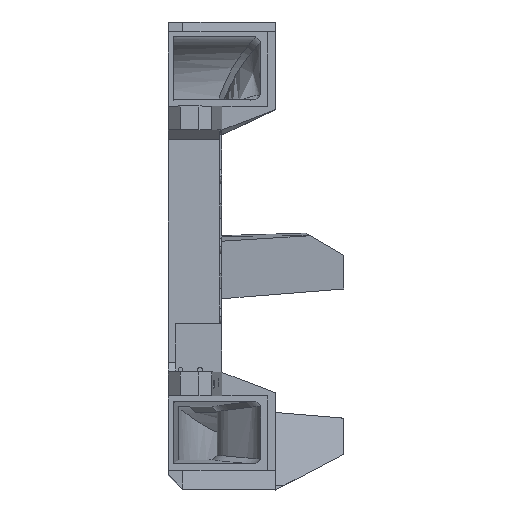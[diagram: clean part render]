
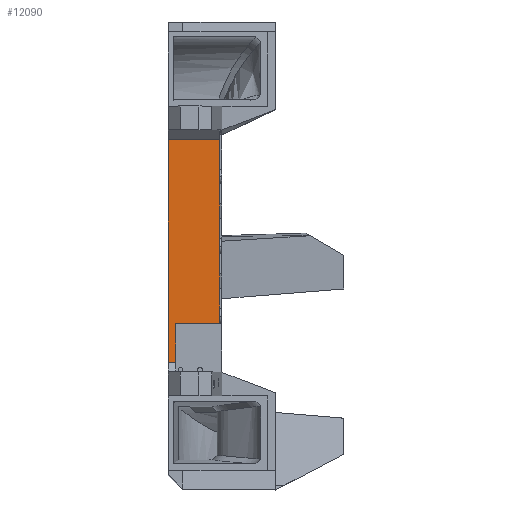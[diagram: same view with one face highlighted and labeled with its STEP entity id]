
A CAD part, top view. The second image highlights one B-rep face of the part: STEP entity #12090.
In plain terms, the highlighted planar face has unit normal (0, 0, 1).
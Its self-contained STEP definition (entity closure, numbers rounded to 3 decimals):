
#719=LINE('',#17948,#1960);
#953=LINE('',#20029,#2194);
#954=LINE('',#20031,#2195);
#955=LINE('',#20033,#2196);
#956=LINE('',#20035,#2197);
#957=LINE('',#20037,#2198);
#958=LINE('',#20039,#2199);
#959=LINE('',#20041,#2200);
#960=LINE('',#20043,#2201);
#961=LINE('',#20045,#2202);
#1960=VECTOR('',#15002,1000.);
#2194=VECTOR('',#15440,1000.);
#2195=VECTOR('',#15441,1000.);
#2196=VECTOR('',#15442,1000.);
#2197=VECTOR('',#15443,1000.);
#2198=VECTOR('',#15444,1000.);
#2199=VECTOR('',#15445,1000.);
#2200=VECTOR('',#15446,1000.);
#2201=VECTOR('',#15447,1000.);
#2202=VECTOR('',#15448,1000.);
#3771=ORIENTED_EDGE('',*,*,#6833,.F.);
#3772=ORIENTED_EDGE('',*,*,#7354,.T.);
#3773=ORIENTED_EDGE('',*,*,#7355,.T.);
#3774=ORIENTED_EDGE('',*,*,#7356,.T.);
#3775=ORIENTED_EDGE('',*,*,#7357,.T.);
#3776=ORIENTED_EDGE('',*,*,#7358,.T.);
#3777=ORIENTED_EDGE('',*,*,#7359,.T.);
#3778=ORIENTED_EDGE('',*,*,#7360,.T.);
#3779=ORIENTED_EDGE('',*,*,#7361,.T.);
#3780=ORIENTED_EDGE('',*,*,#7362,.T.);
#6833=EDGE_CURVE('',#8643,#8644,#719,.T.);
#7354=EDGE_CURVE('',#8643,#9131,#953,.T.);
#7355=EDGE_CURVE('',#9131,#9132,#954,.T.);
#7356=EDGE_CURVE('',#9132,#9133,#955,.T.);
#7357=EDGE_CURVE('',#9133,#9134,#956,.T.);
#7358=EDGE_CURVE('',#9134,#9135,#957,.T.);
#7359=EDGE_CURVE('',#9135,#9136,#958,.T.);
#7360=EDGE_CURVE('',#9136,#9137,#959,.T.);
#7361=EDGE_CURVE('',#9137,#9138,#960,.T.);
#7362=EDGE_CURVE('',#9138,#8644,#961,.T.);
#8643=VERTEX_POINT('',#17947);
#8644=VERTEX_POINT('',#17949);
#9131=VERTEX_POINT('',#20030);
#9132=VERTEX_POINT('',#20032);
#9133=VERTEX_POINT('',#20034);
#9134=VERTEX_POINT('',#20036);
#9135=VERTEX_POINT('',#20038);
#9136=VERTEX_POINT('',#20040);
#9137=VERTEX_POINT('',#20042);
#9138=VERTEX_POINT('',#20044);
#10161=EDGE_LOOP('',(#3771,#3772,#3773,#3774,#3775,#3776,#3777,#3778,#3779,
#3780));
#10896=FACE_BOUND('',#10161,.T.);
#11587=PLANE('',#14256);
#12090=ADVANCED_FACE('',(#10896),#11587,.T.);
#14256=AXIS2_PLACEMENT_3D('',#20028,#15438,#15439);
#15002=DIRECTION('',(0.,1.,0.));
#15438=DIRECTION('',(0.,0.,1.));
#15439=DIRECTION('',(1.,0.,0.));
#15440=DIRECTION('',(1.,0.,0.));
#15441=DIRECTION('',(0.,1.,0.));
#15442=DIRECTION('',(1.,0.,0.));
#15443=DIRECTION('',(0.,1.,0.));
#15444=DIRECTION('',(0.,1.,0.));
#15445=DIRECTION('',(0.,1.,0.));
#15446=DIRECTION('',(0.,1.,0.));
#15447=DIRECTION('',(0.,1.,0.));
#15448=DIRECTION('',(-1.,0.,0.));
#17947=CARTESIAN_POINT('',(-31.,-2.,20.998));
#17948=CARTESIAN_POINT('',(-31.,-4.,20.998));
#17949=CARTESIAN_POINT('',(-31.,43.7,20.998));
#20028=CARTESIAN_POINT('',(-29.5,-4.,20.998));
#20029=CARTESIAN_POINT('',(-29.5,-2.,20.998));
#20030=CARTESIAN_POINT('',(-29.5,-2.,20.998));
#20031=CARTESIAN_POINT('',(-29.5,-4.,20.998));
#20032=CARTESIAN_POINT('',(-29.5,6.,20.998));
#20033=CARTESIAN_POINT('',(-29.5,6.,20.998));
#20034=CARTESIAN_POINT('',(-20.472,6.,20.998));
#20035=CARTESIAN_POINT('',(-20.472,-3.,20.998));
#20036=CARTESIAN_POINT('',(-20.472,13.175,20.998));
#20037=CARTESIAN_POINT('',(-20.472,-141.24,20.998));
#20038=CARTESIAN_POINT('',(-20.472,16.175,20.998));
#20039=CARTESIAN_POINT('',(-20.472,-3.,20.998));
#20040=CARTESIAN_POINT('',(-20.472,27.525,20.998));
#20041=CARTESIAN_POINT('',(-20.472,-141.24,20.998));
#20042=CARTESIAN_POINT('',(-20.472,30.525,20.998));
#20043=CARTESIAN_POINT('',(-20.472,-4.,20.998));
#20044=CARTESIAN_POINT('',(-20.472,43.7,20.998));
#20045=CARTESIAN_POINT('',(-31.,43.7,20.998));
